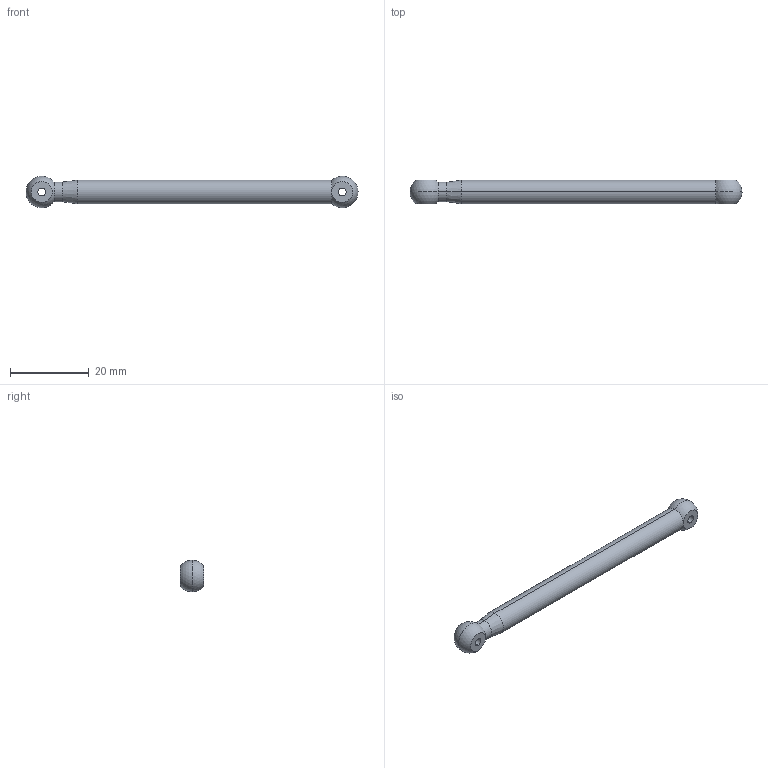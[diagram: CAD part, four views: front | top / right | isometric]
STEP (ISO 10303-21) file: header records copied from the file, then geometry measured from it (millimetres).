
FILE_DESCRIPTION (( 'STEP AP214' ), '1' );
FILE_NAME ('ﾂ琿.STEP', '2019-03-21T14:01:19', ( '' ), ( '' ), 'SwSTEP 2.0', 'SolidWorks 2018', '' );
FILE_SCHEMA (( 'AUTOMOTIVE_DESIGN' ));
Length unit declared in the file: millimetre
Products named in the file (1): ﾂ琿
Bounding box: 84.23 x 6 x 7.99 mm (x, y, z)
Volume: 2379.6 mm3; surface area: 1712.3 mm2
Topology: 1 solids, 1 shells, 18 faces, 43 edges, 27 vertices
Faces by surface type: cylinder 8, sphere 4, plane 4, cone 2
Entity records: 560 total; most frequent: DIRECTION 108, CARTESIAN_POINT 85, ORIENTED_EDGE 80, AXIS2_PLACEMENT_3D 49, EDGE_CURVE 40, CIRCLE 30, VERTEX_POINT 26, EDGE_LOOP 24
